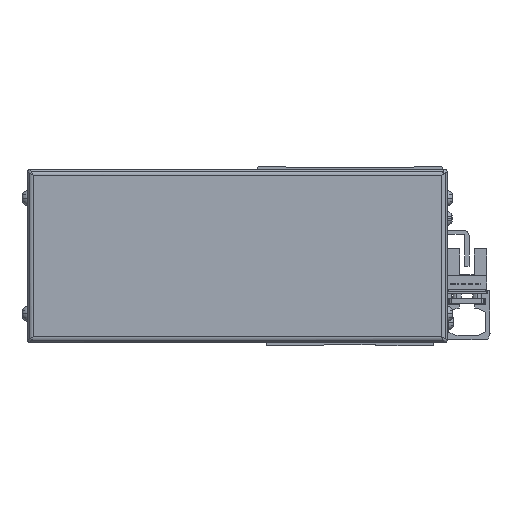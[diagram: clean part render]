
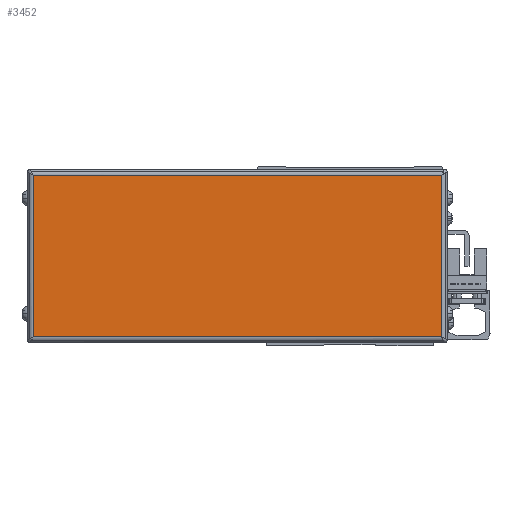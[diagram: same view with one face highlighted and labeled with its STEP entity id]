
A CAD part, front view. The second image highlights one B-rep face of the part: STEP entity #3452.
In plain terms, the highlighted planar face has unit normal (0, -1, 0).
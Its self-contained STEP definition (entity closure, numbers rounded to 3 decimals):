
#3452=ADVANCED_FACE('',(#8479),#8480,.F.);
#8479=FACE_OUTER_BOUND('',#15903,.T.);
#8480=PLANE('',#15904);
#15903=EDGE_LOOP('',(#25299,#25300,#25301,#25302));
#15904=AXIS2_PLACEMENT_3D('',#25303,#25304,#25305);
#25299=ORIENTED_EDGE('',*,*,#44320,.T.);
#25300=ORIENTED_EDGE('',*,*,#42725,.T.);
#25301=ORIENTED_EDGE('',*,*,#44321,.T.);
#25302=ORIENTED_EDGE('',*,*,#44322,.T.);
#25303=CARTESIAN_POINT('',(261.,131.,-4.));
#25304=DIRECTION('',(0.,1.0,0.));
#25305=DIRECTION('',(0.,0.,1.0));
#42725=EDGE_CURVE('',#50757,#50755,#50758,.T.);
#44320=EDGE_CURVE('',#53545,#50757,#53546,.T.);
#44321=EDGE_CURVE('',#50755,#52962,#53547,.T.);
#44322=EDGE_CURVE('',#52962,#53545,#53548,.T.);
#50755=VERTEX_POINT('',#62468);
#50757=VERTEX_POINT('',#62470);
#50758=LINE('',#62471,#62472);
#52962=VERTEX_POINT('',#65494);
#53545=VERTEX_POINT('',#66303);
#53546=LINE('',#66304,#66305);
#53547=LINE('',#66306,#66307);
#53548=LINE('',#66308,#66309);
#62468=CARTESIAN_POINT('',(190.3,131.,-32.));
#62470=CARTESIAN_POINT('',(190.3,131.,24.));
#62471=CARTESIAN_POINT('',(190.3,131.,-4.));
#62472=VECTOR('',#78731,10.0);
#65494=CARTESIAN_POINT('',(331.7,131.,-32.));
#66303=CARTESIAN_POINT('',(331.7,131.,24.));
#66304=CARTESIAN_POINT('',(261.,131.,24.));
#66305=VECTOR('',#80786,10.0);
#66306=CARTESIAN_POINT('',(261.,131.,-32.));
#66307=VECTOR('',#80787,10.0);
#66308=CARTESIAN_POINT('',(331.7,131.,-4.));
#66309=VECTOR('',#80788,10.0);
#78731=DIRECTION('',(0.,0.,-1.0));
#80786=DIRECTION('',(-1.0,0.,0.));
#80787=DIRECTION('',(1.0,0.,0.));
#80788=DIRECTION('',(0.,0.,1.0));
